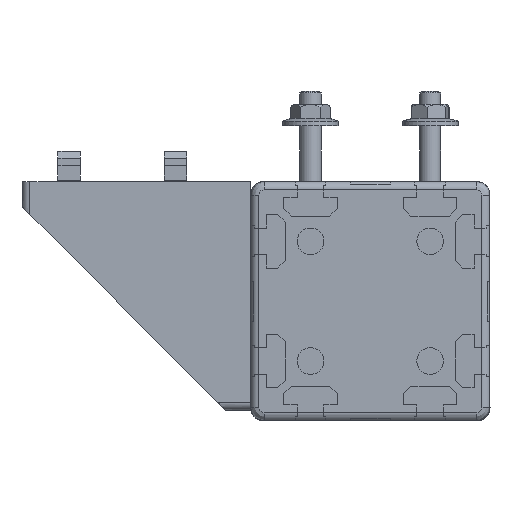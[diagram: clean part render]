
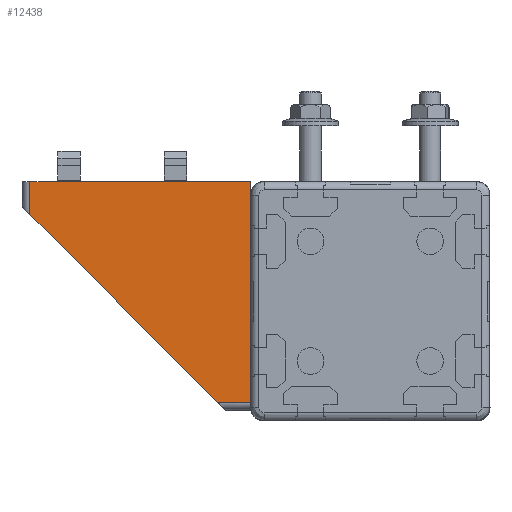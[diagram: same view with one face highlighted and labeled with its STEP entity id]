
A CAD part, left-side view. The second image highlights one B-rep face of the part: STEP entity #12438.
In plain terms, the highlighted planar face has unit normal (-1, 0, 0).
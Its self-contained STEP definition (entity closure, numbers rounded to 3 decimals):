
#2696 = CARTESIAN_POINT ( 'NONE',  ( -1027.75, 45., -38. ) ) ;
#2957 = DIRECTION ( 'NONE',  ( 0., 0., -1. ) ) ;
#3362 = CARTESIAN_POINT ( 'NONE',  ( -1027.75, 45., 45. ) ) ;
#5069 = LINE ( 'NONE', #35276, #18965 ) ;
#5726 = VECTOR ( 'NONE', #22745, 1000. ) ;
#6002 = LINE ( 'NONE', #16969, #34539 ) ;
#7798 = VECTOR ( 'NONE', #8579, 1000. ) ;
#8579 = DIRECTION ( 'NONE',  ( 0., -1., 0. ) ) ;
#8775 = PLANE ( 'NONE',  #28238 ) ;
#9125 = CARTESIAN_POINT ( 'NONE',  ( -1027.75, 45., 45. ) ) ;
#10494 = DIRECTION ( 'NONE',  ( 0., -0.707, -0.707 ) ) ;
#11117 = ORIENTED_EDGE ( 'NONE', *, *, #24434, .T. ) ;
#12438 = ADVANCED_FACE ( 'NONE', ( #24949 ), #8775, .T. ) ;
#12577 = CARTESIAN_POINT ( 'NONE',  ( -1027.75, 128., 32.5 ) ) ;
#14011 = ORIENTED_EDGE ( 'NONE', *, *, #24535, .T. ) ;
#14789 = CARTESIAN_POINT ( 'NONE',  ( -1027.75, 45., 45. ) ) ;
#16969 = CARTESIAN_POINT ( 'NONE',  ( -1027.75, 128., 45. ) ) ;
#17115 = VERTEX_POINT ( 'NONE', #14789 ) ;
#17346 = CARTESIAN_POINT ( 'NONE',  ( -1027.75, 57.5, -38. ) ) ;
#17629 = EDGE_LOOP ( 'NONE', ( #31879, #32052, #14011, #11117, #21940 ) ) ;
#18823 = CARTESIAN_POINT ( 'NONE',  ( -1027.75, 128., 45. ) ) ;
#18965 = VECTOR ( 'NONE', #10494, 1000. ) ;
#19739 = DIRECTION ( 'NONE',  ( 0., 0., -1. ) ) ;
#20769 = LINE ( 'NONE', #25443, #5726 ) ;
#21560 = VERTEX_POINT ( 'NONE', #2696 ) ;
#21940 = ORIENTED_EDGE ( 'NONE', *, *, #31166, .F. ) ;
#22745 = DIRECTION ( 'NONE',  ( 0., -1., 0. ) ) ;
#24397 = VERTEX_POINT ( 'NONE', #17346 ) ;
#24434 = EDGE_CURVE ( 'NONE', #24397, #21560, #20769, .T. ) ;
#24535 = EDGE_CURVE ( 'NONE', #28593, #24397, #5069, .T. ) ;
#24949 = FACE_OUTER_BOUND ( 'NONE', #17629, .T. ) ;
#25443 = CARTESIAN_POINT ( 'NONE',  ( -1027.75, 45., -38. ) ) ;
#25834 = LINE ( 'NONE', #9125, #7798 ) ;
#25994 = VERTEX_POINT ( 'NONE', #18823 ) ;
#27660 = EDGE_CURVE ( 'NONE', #25994, #28593, #6002, .T. ) ;
#28238 = AXIS2_PLACEMENT_3D ( 'NONE', #3362, #30166, #19739 ) ;
#28593 = VERTEX_POINT ( 'NONE', #12577 ) ;
#29378 = CARTESIAN_POINT ( 'NONE',  ( -1027.75, 45., -41. ) ) ;
#29544 = DIRECTION ( 'NONE',  ( 0., 0., -1. ) ) ;
#29890 = LINE ( 'NONE', #29378, #35368 ) ;
#30166 = DIRECTION ( 'NONE',  ( -1., 0., 0. ) ) ;
#31166 = EDGE_CURVE ( 'NONE', #17115, #21560, #29890, .T. ) ;
#31751 = EDGE_CURVE ( 'NONE', #25994, #17115, #25834, .T. ) ;
#31879 = ORIENTED_EDGE ( 'NONE', *, *, #31751, .F. ) ;
#32052 = ORIENTED_EDGE ( 'NONE', *, *, #27660, .T. ) ;
#34539 = VECTOR ( 'NONE', #2957, 1000. ) ;
#35276 = CARTESIAN_POINT ( 'NONE',  ( -1027.75, 128., 32.5 ) ) ;
#35368 = VECTOR ( 'NONE', #29544, 1000. ) ;
